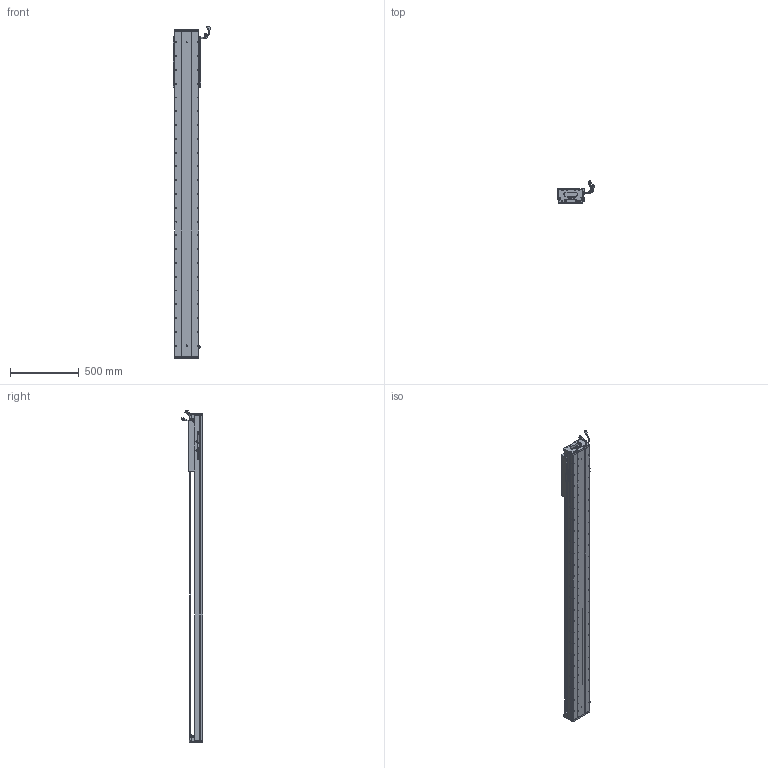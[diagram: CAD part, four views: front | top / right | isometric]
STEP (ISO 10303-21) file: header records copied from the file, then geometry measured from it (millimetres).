
FILE_DESCRIPTION (( 'STEP AP203' ), '1' );
FILE_NAME ('Z5-RY170D-1-L500-B-K.SLDASM_1900.step', '2021-05-18T00:42:03', ( '盈信电脑' ), ( '东莞市道滘镇水果街19号' ), 'SwSTEP 2.0', 'SolidWorks 2016', '' );
FILE_SCHEMA (( 'CONFIG_CONTROL_DESIGN' ));
Length unit declared in the file: millimetre
Products named in the file (36): Z5-RY170臏賑輸(21遴); HOLDER0; Z5-RY170D-1-L500-B-K.SLDASM_1900; SCALE-Part-2; Z-RY170詩湍狟揤裔; HARNESS; SCREW-M1.6-3; Z5-RY170-L500詩湍145mm遵_1900; Z5-RY170-L500耀郪菁釱_1900; COVER; HARNESS-Part-2; 140雄赽晤鎢ん堤盄; 080黍杅芛假蚾釱21遴; SEAL; HARNESS-Part-1; 170-Z-臏賑輸盄裔(21遴); SCREW-M1.6-1; LABEL-Part-1; SCALE; SHIELDPLATE; Z-170詩湍傷裔啣; COVER-Part-1; SCREW-M1.7-1; LABEL; 140蚥薯蝶輸; SCREW-M1.6-2; RY170直线电机感应器672光电感应片; PBU_SHEET; SCREW-M1.6; Z-RY170詩湍奻揤裔; 覜茼ん672; SEAL-Part-1; 榋妏寠巭燃_暯_M2_2; SCREW-M1.7; SCALE-Part-1; PSLH080_PSLF2
Assembly tree (41 placements, depth 4):
  Z5-RY170D-1-L500-B-K.SLDASM_1900
    Z5-RY170-L500耀郪菁釱_1900
    RY170直线电机感应器672光电感应片
    Z5-RY170臏賑輸(21遴)
    覜茼ん672  x3
    PSLH080_PSLF2
      SCALE
        SCALE-Part-1
        SCALE-Part-2
      HARNESS
        HARNESS-Part-1
        HARNESS-Part-2
      LABEL
        LABEL-Part-1
      COVER
        COVER-Part-1
      SEAL
        SEAL-Part-1
      榋妏寠巭燃_暯_M2_2
      SHIELDPLATE
      SCREW-M1.7
      SCREW-M1.7-1
      PBU_SHEET
      SCREW-M1.6
      SCREW-M1.6-1
      SCREW-M1.6-2
      SCREW-M1.6-3
      HOLDER0
    080黍杅芛假蚾釱21遴
    Z5-RY170-L500詩湍145mm遵_1900
    Z-170詩湍傷裔啣  x2
    Z-RY170詩湍奻揤裔  x2
    Z-RY170詩湍狟揤裔  x2
    140蚥薯蝶輸  x2
    170-Z-臏賑輸盄裔(21遴)
    140雄赽晤鎢ん堤盄
Bounding box: 275.34 x 158.11 x 2408.72 mm (x, y, z)
Volume: 12710078.6 mm3; surface area: 3058327.9 mm2
Topology: 36 solids, 36 shells, 3998 faces, 11019 edges, 6891 vertices
Faces by surface type: cylinder 2006, plane 1310, cone 560, torus 69, bspline 53
Entity records: 124823 total; most frequent: CARTESIAN_POINT 34254, ORIENTED_EDGE 18538, DIRECTION 17497, EDGE_CURVE 9269, AXIS2_PLACEMENT_3D 6472, VERTEX_POINT 6009, VECTOR 4553, LINE 4553
